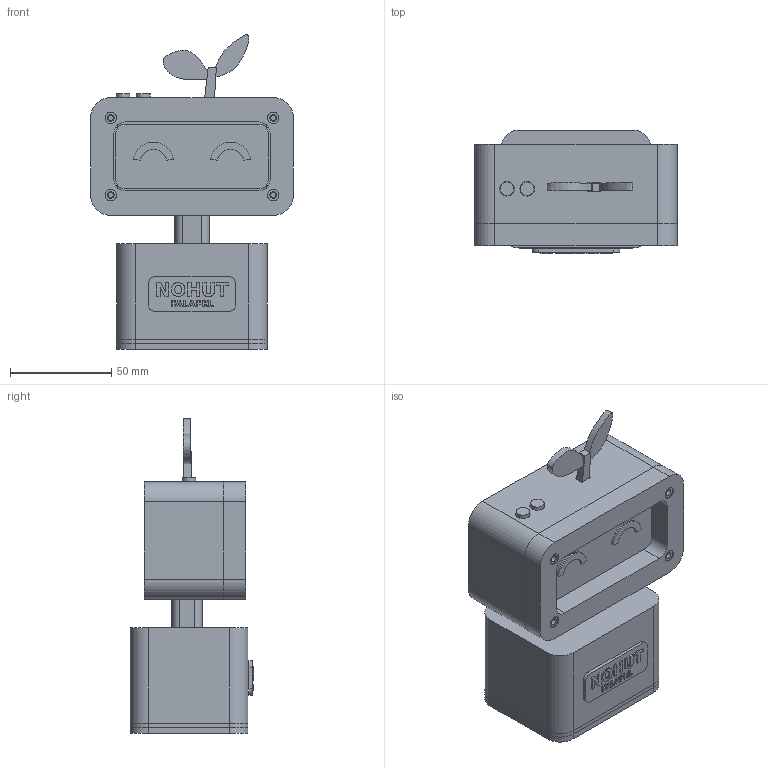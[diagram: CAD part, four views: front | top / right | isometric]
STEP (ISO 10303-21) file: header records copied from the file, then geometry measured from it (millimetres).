
FILE_DESCRIPTION(('Open CASCADE Model'),'2;1');
FILE_NAME('Open CASCADE Shape Model','2026-10-25T23:18:49',('Author'),( 'Open CASCADE'),'Open CASCADE STEP processor 7.9','Open CASCADE 7.9' ,'Unknown');
FILE_SCHEMA(('AUTOMOTIVE_DESIGN { 1 0 10303 214 1 1 1 1 }'));
Length unit declared in the file: millimetre
Products named in the file (17): NOHUTCUK_Individual_Parts; 01_head_front_bezel; 02_head_rear_housing; 03_universal_screen_carrier; 04_optional_display_blank; 15_optional_left_eye_overlay; 16_optional_right_eye_overlay; 05_lower_body_shell; 06_base_bottom_cover; 07_underglow_diffuser_ring; 08_neck_with_cable_channel; 09_electronics_tray_generic; 10_servo_cradle_generic; 11_leaf_sprout_top; 12_top_button_cap; 13_top_button_cap; 14_front_logo_badge
Assembly tree (16 placements, depth 2):
  NOHUTCUK_Individual_Parts
    01_head_front_bezel
    02_head_rear_housing
    03_universal_screen_carrier
    04_optional_display_blank
    15_optional_left_eye_overlay
    16_optional_right_eye_overlay
    05_lower_body_shell
    06_base_bottom_cover
    07_underglow_diffuser_ring
    08_neck_with_cable_channel
    09_electronics_tray_generic
    10_servo_cradle_generic
    11_leaf_sprout_top
    12_top_button_cap
    13_top_button_cap
    14_front_logo_badge
Bounding box: 100 x 60.9 x 155 mm (x, y, z)
Volume: 185511.8 mm3; surface area: 120066.2 mm2
Topology: 16 solids, 16 shells, 686 faces, 1853 edges, 1234 vertices
Faces by surface type: plane 548, cylinder 112, extrusion 26
Full cylindrical faces by diameter (mm): 2.8 x8, 3.3 x10, 5.3 x2, 5.7 x4, 6.3 x4, 6.7 x2, 7.2 x2, 10.2 x4
Entity records: 46734 total; most frequent: CARTESIAN_POINT 10306, DIRECTION 6297, VECTOR 4341, LINE 4315, ORIENTED_EDGE 3706, PCURVE 3706, DEFINITIONAL_REPRESENTATION 3706, EDGE_CURVE 1853
